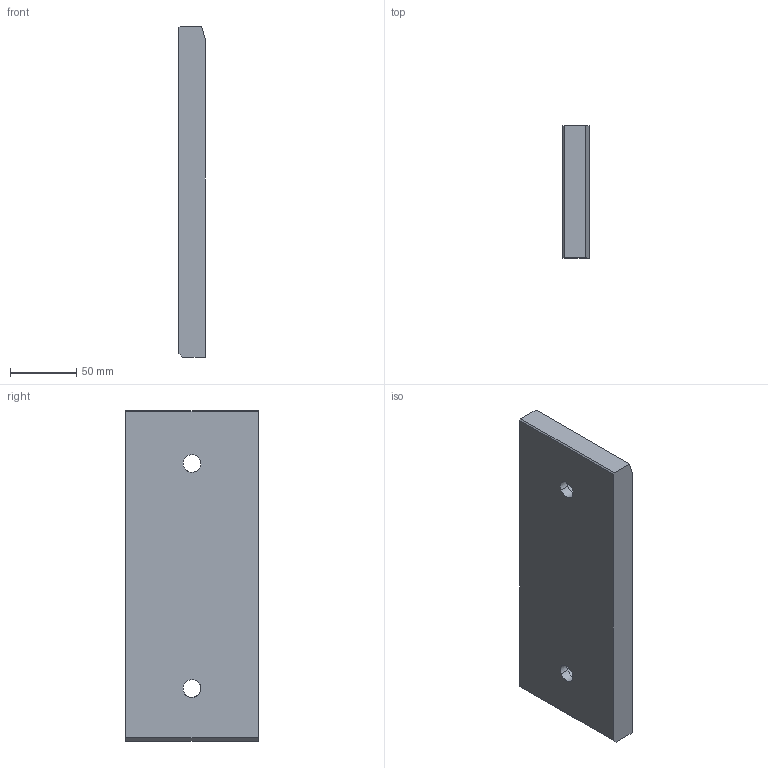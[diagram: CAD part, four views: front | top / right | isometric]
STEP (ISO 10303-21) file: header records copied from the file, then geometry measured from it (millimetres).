
FILE_DESCRIPTION (( 'STEP AP214' ), '1' );
FILE_NAME ('SW225-01-100x250.STEP', '2020-10-21T10:10:58', ( 'August' ), ( '' ), 'SwSTEP 2.0', 'SolidWorks 2018', '' );
FILE_SCHEMA (( 'AUTOMOTIVE_DESIGN' ));
Length unit declared in the file: millimetre
Products named in the file (1): SW225-01-100x250
Bounding box: 20 x 100 x 250 mm (x, y, z)
Volume: 487986.3 mm3; surface area: 65150.3 mm2
Topology: 1 solids, 1 shells, 20 faces, 48 edges, 32 vertices
Faces by surface type: plane 11, cylinder 9
Entity records: 690 total; most frequent: CARTESIAN_POINT 168, DIRECTION 102, ORIENTED_EDGE 96, EDGE_CURVE 48, AXIS2_PLACEMENT_3D 36, VERTEX_POINT 32, LINE 30, VECTOR 30
